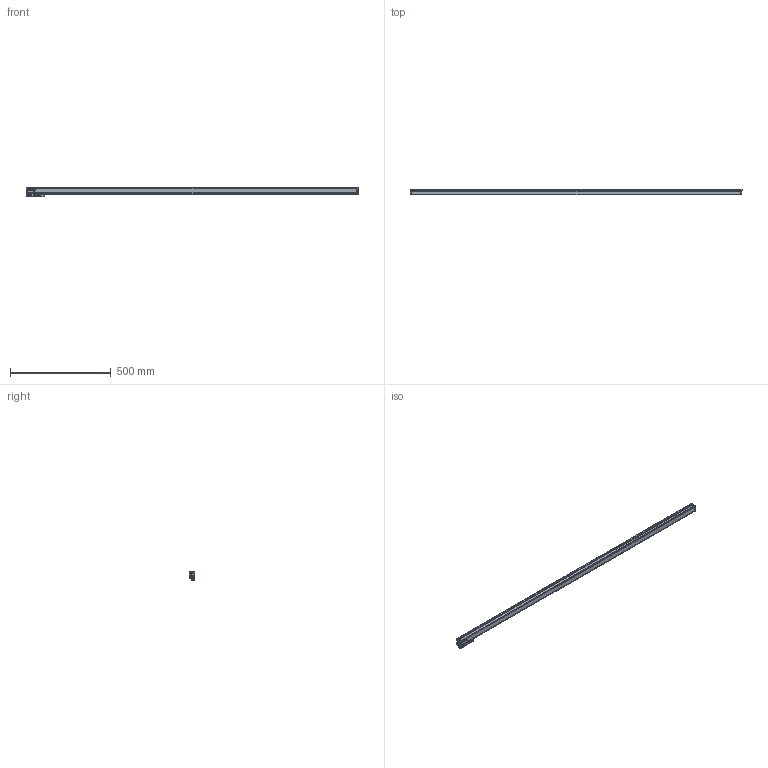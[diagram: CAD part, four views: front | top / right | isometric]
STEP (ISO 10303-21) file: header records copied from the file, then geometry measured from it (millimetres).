
FILE_DESCRIPTION(('Creo Elements/Direct Modeling STEP Export'),'2;1');
FILE_NAME('REGLA_SV3-1540-B.stp','2020-11-02T12:06:37',(''),(''),'Creo Elements/Direct Modeling STEP processor for AP214 (Solid Model)','Creo Elements/Direct Modeling 19.0G 27-Nov-2017 (C) Parametric Technology GmbH','');
FILE_SCHEMA(('AUTOMOTIVE_DESIGN { 1 0 10303 214 1 1 1 1 }'));
Length unit declared in the file: millimetre
Products named in the file (4): PERFIL_REGLA_SV3-1540; PERFIL_SOPORTE_MECANIZADO_REGLA_SV3-1540; CABEZA_RANURADA_REGLA_S3; REGLA_SV3-1540
Assembly tree (3 placements, depth 2):
  REGLA_SV3-1540
    CABEZA_RANURADA_REGLA_S3
    PERFIL_SOPORTE_MECANIZADO_REGLA_SV3-1540
    PERFIL_REGLA_SV3-1540
Bounding box: 1645 x 28.3 x 48.1 mm (x, y, z)
Volume: 1300323.5 mm3; surface area: 421121.6 mm2
Topology: 3 solids, 26 shells, 3576 faces, 11033 edges, 7567 vertices
Faces by surface type: plane 2150, cylinder 1063, cone 266, bspline 49, torus 48
Entity records: 141087 total; most frequent: CARTESIAN_POINT 29582, ORIENTED_EDGE 22022, DIRECTION 18118, EDGE_CURVE 11009, VERTEX_POINT 7567, VECTOR 7170, LINE 7170, AXIS2_PLACEMENT_3D 5474
